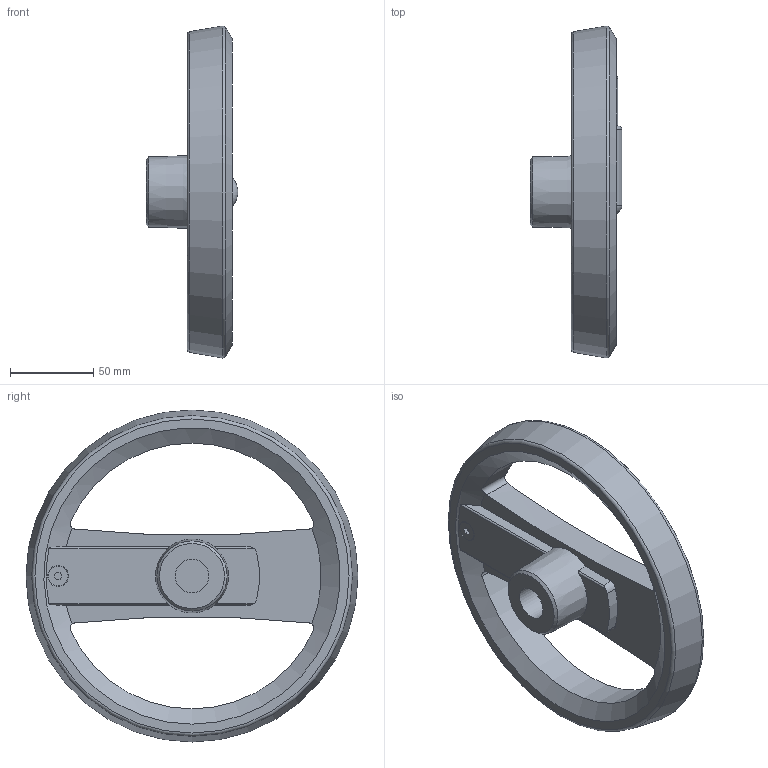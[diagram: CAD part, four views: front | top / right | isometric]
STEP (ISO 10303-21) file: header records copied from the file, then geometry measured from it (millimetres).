
FILE_DESCRIPTION( ( 'STEP AP203' ), '1' );
FILE_NAME( 'C:/Temp/Ganter_Step_05_03_2020/data/1_3/gn_924_3/gn_924_3_b/Handwheel with retractable handle GN 924.3-200-B20-R-SW (unactivated).stp', '2020-03-05T10:41:00', ( 'License CC BY-ND 4.0' ), ( 'CADENAS' ), ' ', 'PARTsolutions', ' ' );
FILE_SCHEMA( ( 'CONFIG_CONTROL_DESIGN' ) );
Length unit declared in the file: millimetre
Products named in the file (3): Handwheel with retractable handle GN 924.3-200-B20-R-SW (unactivated); _Umleggriff-Handrad GN 924.3-200-B20-R-SW-1; _Umleggriff-Handrad GN 924.3-200-B20-R-SW-2
Assembly tree (2 placements, depth 2):
  Handwheel with retractable handle GN 924.3-200-B20-R-SW (unactivated)
    _Umleggriff-Handrad GN 924.3-200-B20-R-SW-1
    _Umleggriff-Handrad GN 924.3-200-B20-R-SW-2
Bounding box: 55.2 x 199.58 x 199.58 mm (x, y, z)
Volume: 415738.7 mm3; surface area: 85366 mm2
Topology: 2 solids, 2 shells, 101 faces, 260 edges, 166 vertices
Faces by surface type: plane 43, cylinder 39, cone 10, torus 7, sphere 2
Full cylindrical faces by diameter (mm): 3.96 x2, 4 x2, 5 x1, 10 x1, 12 x1, 20 x2, 25 x2, 26.6 x1
Entity records: 3329 total; most frequent: CARTESIAN_POINT 909, DIRECTION 488, ORIENTED_EDGE 442, EDGE_CURVE 221, AXIS2_PLACEMENT_3D 200, VERTEX_POINT 160, EDGE_LOOP 142, FACE_OUTER_BOUND 120
